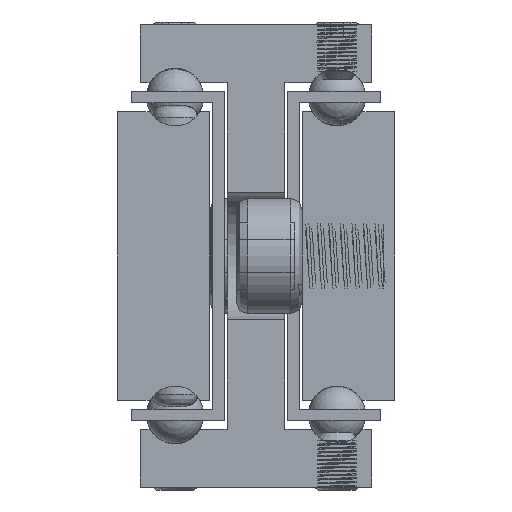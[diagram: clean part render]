
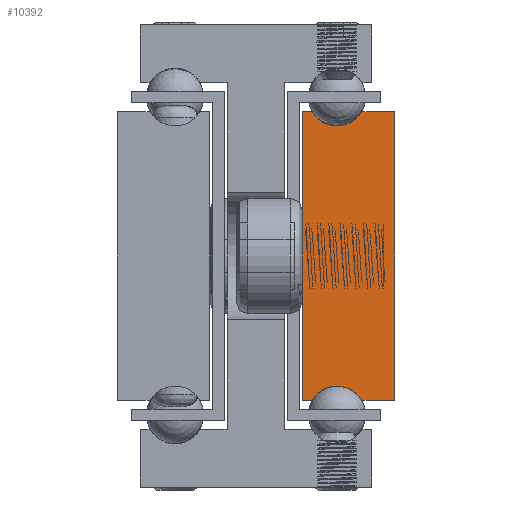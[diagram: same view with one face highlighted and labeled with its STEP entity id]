
A CAD part, front view. The second image highlights one B-rep face of the part: STEP entity #10392.
In plain terms, the highlighted planar face has unit normal (0, -1, 0).
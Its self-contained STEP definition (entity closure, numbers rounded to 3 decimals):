
#972=LINE('',#16006,#1902);
#976=LINE('',#16014,#1906);
#980=LINE('',#16026,#1910);
#983=LINE('',#16032,#1913);
#986=LINE('',#16038,#1916);
#990=LINE('',#16049,#1920);
#1902=VECTOR('',#13344,1.);
#1906=VECTOR('',#13350,1.);
#1910=VECTOR('',#13362,1.);
#1913=VECTOR('',#13367,1.);
#1916=VECTOR('',#13372,1.);
#1920=VECTOR('',#13384,1.);
#2446=PLANE('',#11290);
#3466=FACE_OUTER_BOUND('',#4270,.T.);
#4270=EDGE_LOOP('',(#6262,#6263,#6264,#6265,#6266,#6267,#6268,#6269));
#6262=ORIENTED_EDGE('',*,*,#8144,.T.);
#6263=ORIENTED_EDGE('',*,*,#8122,.T.);
#6264=ORIENTED_EDGE('',*,*,#8126,.T.);
#6265=ORIENTED_EDGE('',*,*,#8129,.T.);
#6266=ORIENTED_EDGE('',*,*,#8132,.T.);
#6267=ORIENTED_EDGE('',*,*,#8135,.T.);
#6268=ORIENTED_EDGE('',*,*,#8138,.T.);
#6269=ORIENTED_EDGE('',*,*,#8141,.T.);
#8122=EDGE_CURVE('',#9326,#9327,#972,.T.);
#8126=EDGE_CURVE('',#9327,#9330,#976,.T.);
#8129=EDGE_CURVE('',#9330,#9332,#9860,.T.);
#8132=EDGE_CURVE('',#9332,#9334,#980,.T.);
#8135=EDGE_CURVE('',#9334,#9336,#983,.T.);
#8138=EDGE_CURVE('',#9336,#9338,#986,.T.);
#8141=EDGE_CURVE('',#9338,#9340,#9862,.T.);
#8144=EDGE_CURVE('',#9340,#9326,#990,.T.);
#9326=VERTEX_POINT('',#16004);
#9327=VERTEX_POINT('',#16005);
#9330=VERTEX_POINT('',#16013);
#9332=VERTEX_POINT('',#16019);
#9334=VERTEX_POINT('',#16025);
#9336=VERTEX_POINT('',#16031);
#9338=VERTEX_POINT('',#16037);
#9340=VERTEX_POINT('',#16043);
#9860=CIRCLE('',#11281,2.5);
#9862=CIRCLE('',#11287,2.5);
#10392=ADVANCED_FACE('',(#3466),#2446,.F.);
#11281=AXIS2_PLACEMENT_3D('',#16020,#13355,#13356);
#11287=AXIS2_PLACEMENT_3D('',#16044,#13377,#13378);
#11290=AXIS2_PLACEMENT_3D('',#16051,#13386,#13387);
#13344=DIRECTION('',(0.,0.,1.));
#13350=DIRECTION('',(-1.,0.,0.));
#13355=DIRECTION('center_axis',(0.,1.,0.));
#13356=DIRECTION('ref_axis',(0.866,0.,-0.5));
#13362=DIRECTION('',(-1.,0.,0.));
#13367=DIRECTION('',(0.,0.,-1.));
#13372=DIRECTION('',(1.,0.,0.));
#13377=DIRECTION('center_axis',(0.,1.,0.));
#13378=DIRECTION('ref_axis',(-0.866,0.,0.5));
#13384=DIRECTION('',(1.,0.,0.));
#13386=DIRECTION('center_axis',(0.,1.,0.));
#13387=DIRECTION('ref_axis',(-1.,0.,0.));
#16004=CARTESIAN_POINT('',(2272.794,972.384,487.5));
#16005=CARTESIAN_POINT('',(2272.794,972.384,512.5));
#16006=CARTESIAN_POINT('',(2272.794,972.384,487.5));
#16013=CARTESIAN_POINT('',(2269.959,972.384,512.5));
#16014=CARTESIAN_POINT('',(2272.794,972.384,512.5));
#16019=CARTESIAN_POINT('',(2265.629,972.384,512.5));
#16020=CARTESIAN_POINT('Origin',(2267.794,972.384,513.75));
#16025=CARTESIAN_POINT('',(2264.794,972.384,512.5));
#16026=CARTESIAN_POINT('',(2265.629,972.384,512.5));
#16031=CARTESIAN_POINT('',(2264.794,972.384,487.5));
#16032=CARTESIAN_POINT('',(2264.794,972.384,512.5));
#16037=CARTESIAN_POINT('',(2265.629,972.384,487.5));
#16038=CARTESIAN_POINT('',(2264.794,972.384,487.5));
#16043=CARTESIAN_POINT('',(2269.959,972.384,487.5));
#16044=CARTESIAN_POINT('Origin',(2267.794,972.384,486.25));
#16049=CARTESIAN_POINT('',(2269.959,972.384,487.5));
#16051=CARTESIAN_POINT('Origin',(2268.806,972.384,500.));
